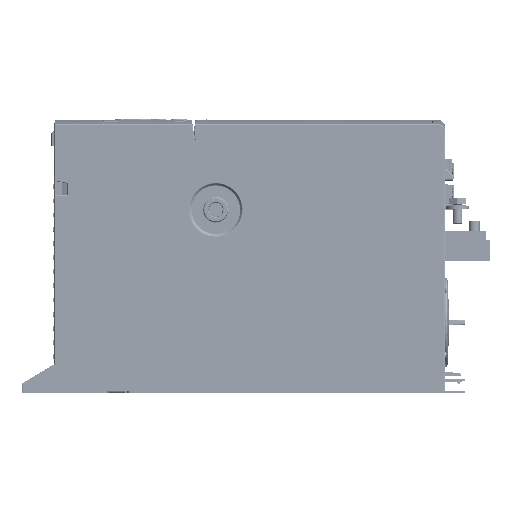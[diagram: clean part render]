
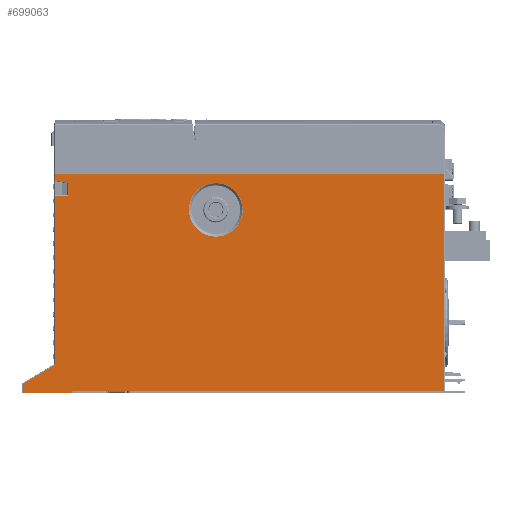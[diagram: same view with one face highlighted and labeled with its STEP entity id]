
A CAD part, left-side view. The second image highlights one B-rep face of the part: STEP entity #699063.
In plain terms, the highlighted planar face has unit normal (-1, 0, 0).
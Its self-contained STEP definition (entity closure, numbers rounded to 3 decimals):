
#659548=CARTESIAN_POINT('',(-52.5,11.068,-0.998));
#659549=CARTESIAN_POINT('',(-52.5,11.07,-1.108));
#659550=CARTESIAN_POINT('',(-52.5,11.123,-1.262));
#659551=CARTESIAN_POINT('',(-52.5,11.314,-1.455));
#659552=CARTESIAN_POINT('',(-52.5,11.477,-1.5));
#659553=CARTESIAN_POINT('',(-52.5,11.571,-1.5));
#659555=DIRECTION('',(0.,1.,0.));
#659556=VECTOR('',#659555,29.829);
#659557=CARTESIAN_POINT('',(-52.5,11.571,-1.5));
#659558=LINE('',#659557,#659556);
#659559=DIRECTION('',(0.,-0.859,0.512));
#659560=VECTOR('',#659559,21.824);
#659561=CARTESIAN_POINT('',(-52.5,41.4,4.216));
#659562=LINE('',#659561,#659560);
#659563=DIRECTION('',(0.,-1.,0.023));
#659564=VECTOR('',#659563,0.128);
#659565=CARTESIAN_POINT('',(-52.5,22.647,15.379));
#659566=LINE('',#659565,#659564);
#659567=CARTESIAN_POINT('',(-52.5,22.519,
15.382));
#659568=CARTESIAN_POINT('',(-52.5,22.377,
15.387));
#659569=CARTESIAN_POINT('',(-52.5,22.133,
15.449));
#659570=CARTESIAN_POINT('',(-52.5,21.812,
15.671));
#659571=CARTESIAN_POINT('',(-52.5,21.602,
15.998));
#659572=CARTESIAN_POINT('',(-52.5,21.55,16.247));
#659573=CARTESIAN_POINT('',(-52.5,21.55,16.383));
#659575=DIRECTION('',(0.,0.985,0.174));
#659576=VECTOR('',#659575,8.22);
#659577=CARTESIAN_POINT('',(-52.5,13.455,127.859));
#659578=LINE('',#659577,#659576);
#659579=CARTESIAN_POINT('',(-52.5,11.057,0.));
#659580=CARTESIAN_POINT('',(-52.5,11.063,-0.326));
#659581=CARTESIAN_POINT('',(-52.5,11.062,-0.673));
#659582=CARTESIAN_POINT('',(-52.5,11.068,-0.998));
#659584=CARTESIAN_POINT('',(-52.5,-77.2,111.2));
#659585=DIRECTION('',(-1.,0.,0.));
#659586=DIRECTION('',(0.,-1.,0.004));
#659587=AXIS2_PLACEMENT_3D('',#659584,#659585,#659586);
#659589=CARTESIAN_POINT('',(-52.5,-77.2,111.2));
#659590=DIRECTION('',(-1.,0.,0.));
#659591=DIRECTION('',(0.,1.,-0.004));
#659592=AXIS2_PLACEMENT_3D('',#659589,#659590,#659591);
#659598=DIRECTION('',(0.,0.,-1.));
#659599=VECTOR('',#659598,5.716);
#659600=CARTESIAN_POINT('',(-52.5,41.4,4.216));
#659601=LINE('',#659600,#659599);
#661393=DIRECTION('',(0.,-1.,0.));
#661394=VECTOR('',#661393,228.507);
#661395=CARTESIAN_POINT('',(-52.5,11.057,0.));
#661396=LINE('',#661395,#661394);
#665826=CARTESIAN_POINT('',(-52.5,-77.2,111.2));
#665827=DIRECTION('',(1.,0.,0.));
#665828=DIRECTION('',(0.,1.,-0.004));
#665829=AXIS2_PLACEMENT_3D('',#665826,#665827,#665828);
#665856=CARTESIAN_POINT('',(-52.5,-77.2,111.2));
#665857=DIRECTION('',(1.,0.,0.));
#665858=DIRECTION('',(0.,-1.,0.004));
#665859=AXIS2_PLACEMENT_3D('',#665856,#665857,#665858);
#670792=DIRECTION('',(0.,1.,0.));
#670793=VECTOR('',#670792,239.);
#670794=CARTESIAN_POINT('',(-52.5,-217.45,132.884));
#670795=LINE('',#670794,#670793);
#670812=DIRECTION('',(0.,0.,1.));
#670813=VECTOR('',#670812,132.884);
#670814=CARTESIAN_POINT('',(-52.5,-217.45,0.));
#670815=LINE('',#670814,#670813);
#670816=DIRECTION('',(0.,0.,-1.));
#670817=VECTOR('',#670816,3.598);
#670818=CARTESIAN_POINT('',(-52.5,21.55,132.884));
#670819=LINE('',#670818,#670817);
#670863=DIRECTION('',(0.,0.,-1.));
#670864=VECTOR('',#670863,8.254);
#670865=CARTESIAN_POINT('',(-52.5,13.455,127.859));
#670866=LINE('',#670865,#670864);
#670867=DIRECTION('',(0.,1.,-0.001));
#670868=VECTOR('',#670867,8.095);
#670869=CARTESIAN_POINT('',(-52.5,13.455,119.605));
#670870=LINE('',#670869,#670868);
#671001=DIRECTION('',(0.,0.,-1.));
#671002=VECTOR('',#671001,103.216);
#671003=CARTESIAN_POINT('',(-52.5,21.55,119.598));
#671004=LINE('',#671003,#671002);
#689066=CARTESIAN_POINT('',(-52.5,11.571,-1.5));
#689068=VERTEX_POINT('',#689066);
#689075=CARTESIAN_POINT('',(-52.5,41.4,-1.5));
#689076=VERTEX_POINT('',#689075);
#689077=VERTEX_POINT('',#659548);
#689080=CARTESIAN_POINT('',(-52.5,41.4,4.216));
#689081=VERTEX_POINT('',#689080);
#689082=CARTESIAN_POINT('',(-52.5,22.647,15.379));
#689083=VERTEX_POINT('',#689082);
#689084=CARTESIAN_POINT('',(-52.5,22.519,
15.382));
#689085=VERTEX_POINT('',#689084);
#689086=VERTEX_POINT('',#659573);
#689087=CARTESIAN_POINT('',(-52.5,21.55,119.598));
#689088=VERTEX_POINT('',#689087);
#689089=CARTESIAN_POINT('',(-52.5,13.455,119.605));
#689090=VERTEX_POINT('',#689089);
#689091=CARTESIAN_POINT('',(-52.5,13.455,127.859));
#689092=VERTEX_POINT('',#689091);
#689093=CARTESIAN_POINT('',(-52.5,21.55,129.286));
#689094=VERTEX_POINT('',#689093);
#689095=CARTESIAN_POINT('',(-52.5,21.55,132.884));
#689096=VERTEX_POINT('',#689095);
#689097=CARTESIAN_POINT('',(-52.5,-217.45,132.884));
#689098=VERTEX_POINT('',#689097);
#689099=CARTESIAN_POINT('',(-52.5,-217.45,0.));
#689100=VERTEX_POINT('',#689099);
#689101=CARTESIAN_POINT('',(-52.5,11.057,0.));
#689102=VERTEX_POINT('',#689101);
#689103=CARTESIAN_POINT('',(-52.5,-93.757,111.262));
#689104=CARTESIAN_POINT('',(-52.5,-93.757,111.2));
#689105=VERTEX_POINT('',#689103);
#689106=VERTEX_POINT('',#689104);
#689107=CARTESIAN_POINT('',(-52.5,-60.643,111.2));
#689108=VERTEX_POINT('',#689107);
#689109=CARTESIAN_POINT('',(-52.5,-60.643,111.138));
#689110=VERTEX_POINT('',#689109);
#699018=CARTESIAN_POINT('',(-52.5,-88.025,65.692));
#699019=DIRECTION('',(1.,0.,0.));
#699020=DIRECTION('',(0.,0.,1.));
#699021=AXIS2_PLACEMENT_3D('',#699018,#699019,#699020);
#699022=PLANE('',#699021);
#699023=ORIENTED_EDGE('',*,*,#699008,.T.);
#699024=ORIENTED_EDGE('',*,*,#698998,.T.);
#699026=ORIENTED_EDGE('',*,*,#699025,.F.);
#699028=ORIENTED_EDGE('',*,*,#699027,.T.);
#699030=ORIENTED_EDGE('',*,*,#699029,.T.);
#699032=ORIENTED_EDGE('',*,*,#699031,.T.);
#699034=ORIENTED_EDGE('',*,*,#699033,.F.);
#699036=ORIENTED_EDGE('',*,*,#699035,.F.);
#699038=ORIENTED_EDGE('',*,*,#699037,.F.);
#699040=ORIENTED_EDGE('',*,*,#699039,.T.);
#699042=ORIENTED_EDGE('',*,*,#699041,.F.);
#699044=ORIENTED_EDGE('',*,*,#699043,.F.);
#699046=ORIENTED_EDGE('',*,*,#699045,.F.);
#699048=ORIENTED_EDGE('',*,*,#699047,.F.);
#699050=ORIENTED_EDGE('',*,*,#699049,.T.);
#699051=EDGE_LOOP('',(#699023,#699024,#699026,#699028,#699030,#699032,#699034,
#699036,#699038,#699040,#699042,#699044,#699046,#699048,#699050));
#699052=FACE_OUTER_BOUND('',#699051,.F.);
#699054=ORIENTED_EDGE('',*,*,#699053,.F.);
#699056=ORIENTED_EDGE('',*,*,#699055,.T.);
#699058=ORIENTED_EDGE('',*,*,#699057,.F.);
#699060=ORIENTED_EDGE('',*,*,#699059,.T.);
#699061=EDGE_LOOP('',(#699054,#699056,#699058,#699060));
#699062=FACE_BOUND('',#699061,.F.);
#699063=ADVANCED_FACE('',(#699052,#699062),#699022,.F.);
#659554=B_SPLINE_CURVE_WITH_KNOTS('',3,(#659548,#659549,#659550,#659551,#659552,
#659553),.UNSPECIFIED.,.F.,.F.,(4,1,1,4),(0.,0.333,
0.667,1.),.UNSPECIFIED.);
#659574=B_SPLINE_CURVE_WITH_KNOTS('',3,(#659567,#659568,#659569,#659570,#659571,
#659572,#659573),.UNSPECIFIED.,.F.,.F.,(4,1,1,1,4),(0.,0.25,0.5,0.75,
1.),.UNSPECIFIED.);
#659583=B_SPLINE_CURVE_WITH_KNOTS('',3,(#659579,#659580,#659581,#659582),
.UNSPECIFIED.,.F.,.F.,(4,4),(0.,1.),.UNSPECIFIED.);
#659588=CIRCLE('',#659587,16.557);
#659593=CIRCLE('',#659592,16.557);
#665830=CIRCLE('',#665829,16.557);
#665860=CIRCLE('',#665859,16.557);
#698998=EDGE_CURVE('',#689068,#689076,#659558,.T.);
#699008=EDGE_CURVE('',#689077,#689068,#659554,.T.);
#699025=EDGE_CURVE('',#689081,#689076,#659601,.T.);
#699027=EDGE_CURVE('',#689081,#689083,#659562,.T.);
#699029=EDGE_CURVE('',#689083,#689085,#659566,.T.);
#699031=EDGE_CURVE('',#689085,#689086,#659574,.T.);
#699033=EDGE_CURVE('',#689088,#689086,#671004,.T.);
#699035=EDGE_CURVE('',#689090,#689088,#670870,.T.);
#699037=EDGE_CURVE('',#689092,#689090,#670866,.T.);
#699039=EDGE_CURVE('',#689092,#689094,#659578,.T.);
#699041=EDGE_CURVE('',#689096,#689094,#670819,.T.);
#699043=EDGE_CURVE('',#689098,#689096,#670795,.T.);
#699045=EDGE_CURVE('',#689100,#689098,#670815,.T.);
#699047=EDGE_CURVE('',#689102,#689100,#661396,.T.);
#699049=EDGE_CURVE('',#689102,#689077,#659583,.T.);
#699053=EDGE_CURVE('',#689105,#689106,#665860,.T.);
#699055=EDGE_CURVE('',#689105,#689108,#659588,.T.);
#699057=EDGE_CURVE('',#689110,#689108,#665830,.T.);
#699059=EDGE_CURVE('',#689110,#689106,#659593,.T.);
